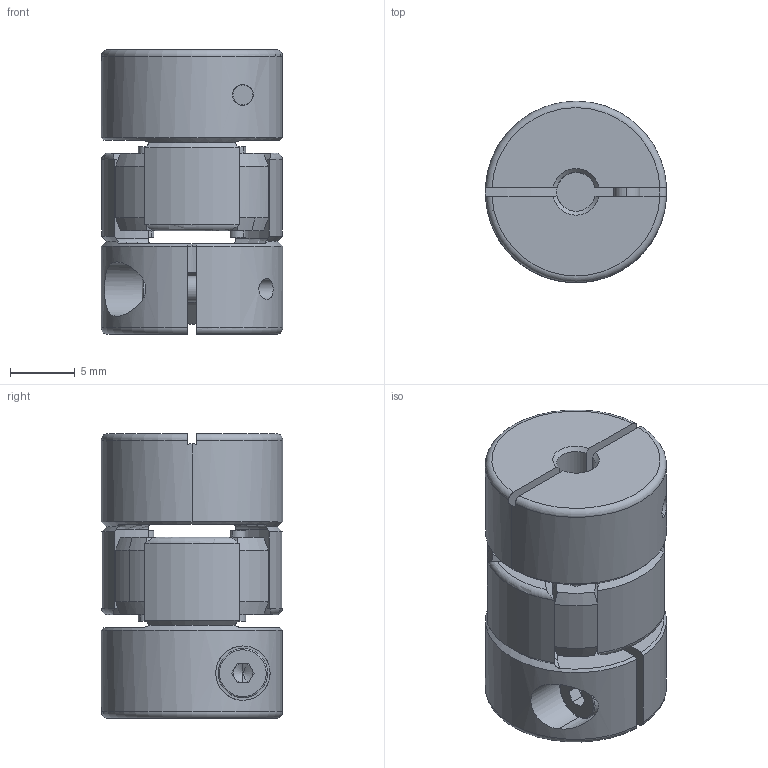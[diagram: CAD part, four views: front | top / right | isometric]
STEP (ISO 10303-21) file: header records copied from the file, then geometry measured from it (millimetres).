
FILE_DESCRIPTION (( 'STEP AP203' ), '1' );
FILE_NAME ('SJC-14C-3X5_203.STEP', '2013-02-17T06:21:25', ( 'MYCOM' ), ( '' ), 'SwSTEP 2.0', 'SolidWorks 2012', '' );
FILE_SCHEMA (( 'CONFIG_CONTROL_DESIGN' ));
Length unit declared in the file: millimetre
Products named in the file (1): SJC-14C-3X5_203
Bounding box: 14 x 14 x 22 mm (x, y, z)
Volume: 2738.6 mm3; surface area: 2415 mm2
Topology: 1 solids, 1 shells, 232 faces, 598 edges, 364 vertices
Faces by surface type: cylinder 79, cone 61, plane 60, torus 32
Entity records: 7557 total; most frequent: CARTESIAN_POINT 1831, DIRECTION 1232, ORIENTED_EDGE 1188, EDGE_CURVE 594, AXIS2_PLACEMENT_3D 519, VERTEX_POINT 364, CIRCLE 286, EDGE_LOOP 248
